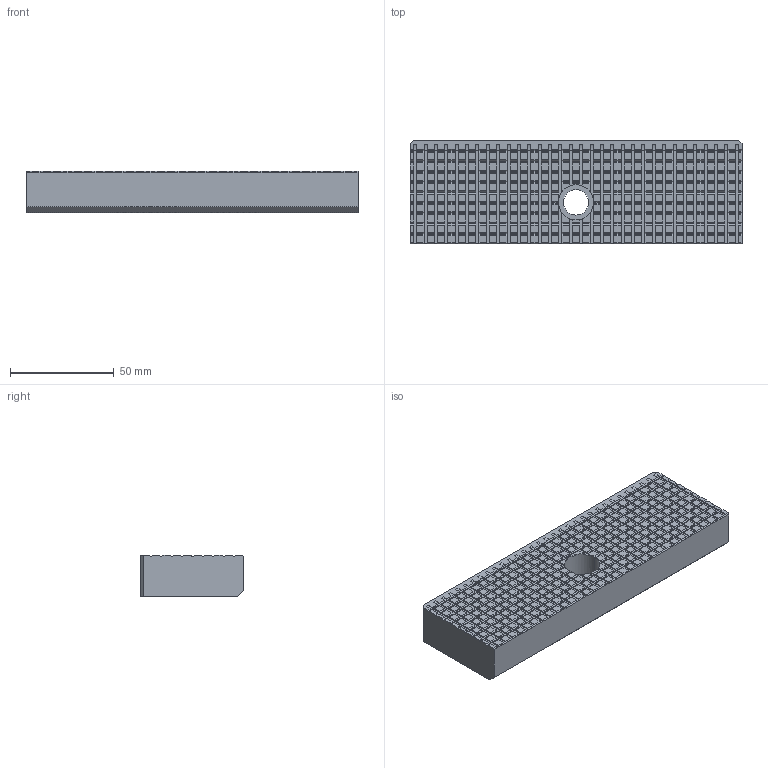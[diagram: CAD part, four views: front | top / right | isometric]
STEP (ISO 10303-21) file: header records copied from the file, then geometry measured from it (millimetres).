
FILE_DESCRIPTION (( 'STEP AP214' ), '1' );
FILE_NAME ('6921031005031.STEP', '2016-02-12T12:50:44', ( '' ), ( '' ), 'SwSTEP 2.0', 'SolidWorks 2015', '' );
FILE_SCHEMA (( 'AUTOMOTIVE_DESIGN' ));
Length unit declared in the file: millimetre
Products named in the file (1): 6921031005031
Bounding box: 160 x 50 x 20 mm (x, y, z)
Volume: 153853.4 mm3; surface area: 26432.6 mm2
Topology: 1 solids, 1 shells, 2194 faces, 5877 edges, 3918 vertices
Faces by surface type: plane 1545, cylinder 649
Entity records: 68376 total; most frequent: CARTESIAN_POINT 12061, ORIENTED_EDGE 11754, DIRECTION 11559, EDGE_CURVE 5877, LINE 4549, VECTOR 4549, VERTEX_POINT 3918, AXIS2_PLACEMENT_3D 3505
